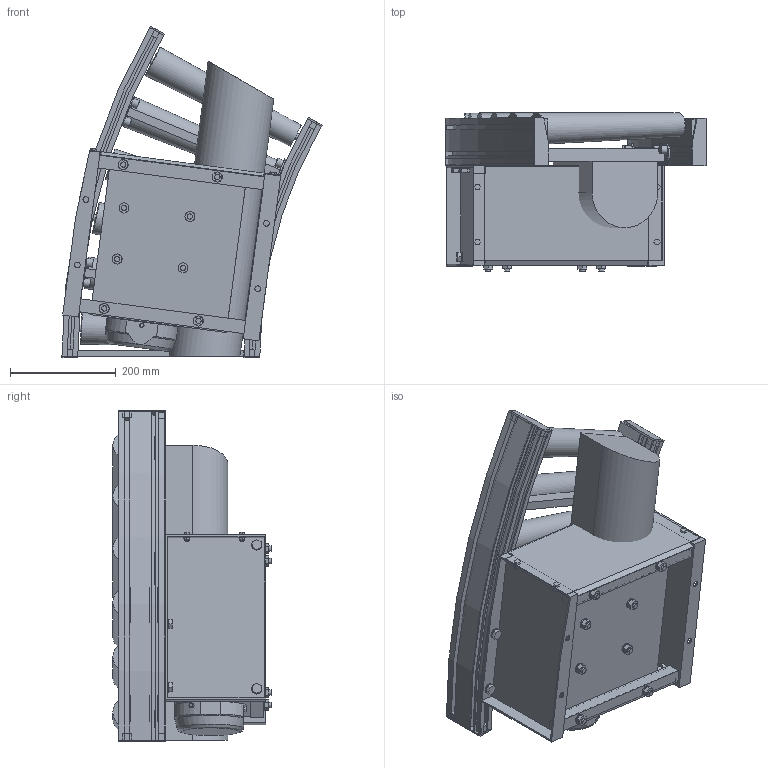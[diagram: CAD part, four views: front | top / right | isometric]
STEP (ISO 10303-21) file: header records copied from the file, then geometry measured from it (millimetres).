
FILE_DESCRIPTION( (''), '2;1');
FILE_NAME ('WEB-MCD1-50-315-100-30°-C9.stp','2026-06-19T10:46:46',(''),(''),'spGate 21.9.5 (****-****-****-****)','','');
FILE_SCHEMA (('AUTOMOTIVE_DESIGN'));
Length unit declared in the file: millimetre
Products named in the file (36): WEB-MCD1-50-315-100-30_-C9; TEMP_X_T-prt0; TEMP_X_T-prt1; TEMP_X_T-prt2; TEMP_X_T-prt3; TEMP_X_T-prt4; TEMP_X_T-prt5; TEMP_X_T-prt6; TEMP_X_T-prt7; TEMP_X_T-prt8; TEMP_X_T-prt9; TEMP_X_T-prt10; TEMP_X_T-prt11; TEMP_X_T-prt12; TEMP_X_T-prt13; TEMP_X_T-prt14; TEMP_X_T-prt15; TEMP_X_T-prt16; TEMP_X_T-prt17; TEMP_X_T-prt18; TEMP_X_T-prt19; TEMP_X_T-prt20; TEMP_X_T-prt21; TEMP_X_T-prt22; TEMP_X_T-prt23; TEMP_X_T-prt24; TEMP_X_T-prt25; TEMP_X_T-prt26; TEMP_X_T-prt27; TEMP_X_T-prt28; TEMP_X_T-prt29; TEMP_X_T-prt30; TEMP_X_T-prt31; TEMP_X_T-prt32; TEMP_X_T-prt33; TEMP_X_T-prt34
Assembly tree (35 placements, depth 2):
  WEB-MCD1-50-315-100-30_-C9
    TEMP_X_T-prt0
    TEMP_X_T-prt1
    TEMP_X_T-prt2
    TEMP_X_T-prt3
    TEMP_X_T-prt4
    TEMP_X_T-prt5
    TEMP_X_T-prt6
    TEMP_X_T-prt7
    TEMP_X_T-prt8
    TEMP_X_T-prt9
    TEMP_X_T-prt10
    TEMP_X_T-prt11
    TEMP_X_T-prt12
    TEMP_X_T-prt13
    TEMP_X_T-prt14
    TEMP_X_T-prt15
    TEMP_X_T-prt16
    TEMP_X_T-prt17
    TEMP_X_T-prt18
    TEMP_X_T-prt19
    TEMP_X_T-prt20
    TEMP_X_T-prt21
    TEMP_X_T-prt22
    TEMP_X_T-prt23
    TEMP_X_T-prt24
    TEMP_X_T-prt25
    TEMP_X_T-prt26
    TEMP_X_T-prt27
    TEMP_X_T-prt28
    TEMP_X_T-prt29
    TEMP_X_T-prt30
    TEMP_X_T-prt31
    TEMP_X_T-prt32
    TEMP_X_T-prt33
    TEMP_X_T-prt34
Bounding box: 493.06 x 299.77 x 628.1 mm (x, y, z)
Volume: 20971641.5 mm3; surface area: 2233204.2 mm2
Topology: 31 solids, 39 shells, 1108 faces, 2659 edges, 1780 vertices
Faces by surface type: plane 830, cylinder 249, bspline 29
Full cylindrical faces by diameter (mm): 6 x9, 6.1 x4, 6.5 x8, 10 x30, 10.2 x16, 10.5 x4, 11 x29, 12 x13, 12.2 x4, 16 x8, 18.4 x16, 21 x4, 24 x1, 28 x1, 56 x1, 113.2 x1, 125 x1, 135.411 x1
Entity records: 55979 total; most frequent: CARTESIAN_POINT 6795, DIRECTION 5578, ORIENTED_EDGE 5308, COLOUR_RGB 3797, PRESENTATION_STYLE_ASSIGNMENT 3797, STYLED_ITEM 3797, DRAUGHTING_PRE_DEFINED_CURVE_FONT 2658, CURVE_STYLE 2658
